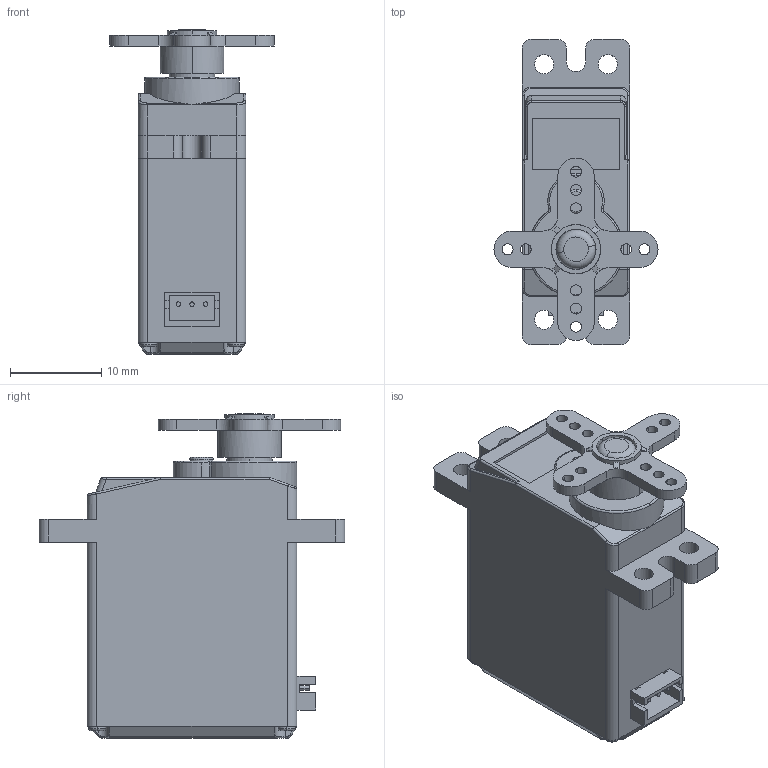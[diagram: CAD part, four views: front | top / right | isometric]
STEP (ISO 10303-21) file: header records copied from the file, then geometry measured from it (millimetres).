
FILE_DESCRIPTION (( 'STEP AP214' ), '1' );
FILE_NAME ('AD12-06H-A02(3D).STEP', '2024-11-20T00:30:00', ( '' ), ( '' ), 'SwSTEP 2.0', 'SolidWorks 2023', '' );
FILE_SCHEMA (( 'AUTOMOTIVE_DESIGN' ));
Length unit declared in the file: millimetre
Products named in the file (4): SCREW M2×5; HORN; AD12-06H-A02(3D)
Assembly tree (3 placements, depth 2):
  AD12-06H-A02(3D)
    AD12-06H-A02(3D)
    HORN
    SCREW M2×5
Bounding box: 18 x 33.5 x 35.6 mm (x, y, z)
Volume: 8282.5 mm3; surface area: 3718.1 mm2
Topology: 3 solids, 3 shells, 362 faces, 940 edges, 599 vertices
Faces by surface type: cylinder 160, plane 151, torus 31, bspline 14, cone 6
Entity records: 13247 total; most frequent: CARTESIAN_POINT 4093, DIRECTION 1927, ORIENTED_EDGE 1876, EDGE_CURVE 938, AXIS2_PLACEMENT_3D 709, VERTEX_POINT 598, VECTOR 509, LINE 509
